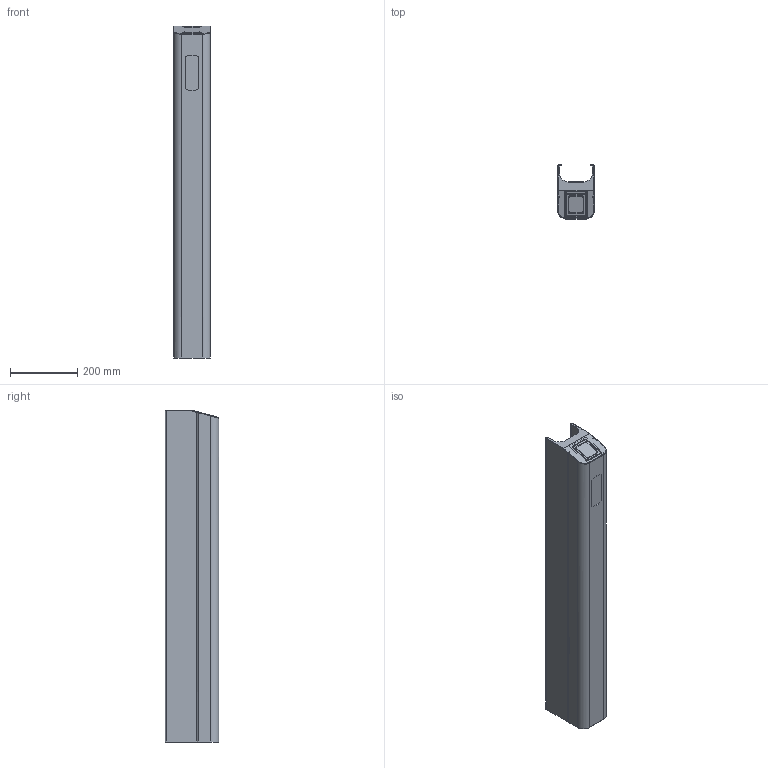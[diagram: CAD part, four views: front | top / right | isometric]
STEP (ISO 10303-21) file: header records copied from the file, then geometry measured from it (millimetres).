
FILE_DESCRIPTION(/* description */ ('Unknown'),/* implementation_level */ '2;1');
FILE_NAME(/* name */ 'ST-01 FP-01Q.1',/* time_stamp */ '2021-12-24T09:41:59+03:00',/* author */ ('Unknown'),/* organization */ ('Unknown'),/* preprocessor_version */ 'ST-DEVELOPER v18.1',/* originating_system */ 'Solid Edge',/* authorisation */ 'Unknown');
FILE_SCHEMA (('CONFIG_CONTROL_DESIGN'));
Length unit declared in the file: millimetre
Products named in the file (18): ST-01 FP-01Q.1; ST-01.6.093.00 ﾊ濱oa_0; ST-01.6.085.00 扰鍙欙樥燲oa_1; ST-01.6.083.17 鍔膰睯縺_r1; ST-01.6.083.14 署赅 r1; ST-01.6.083.17-01 鍔膰睯縺; ST-01.6.086.00 昜闉趌oa_2; ST-01.6.087.00 昜闉趌oa_3; ST-01.6.085.00 扰鍙欙樥燲oa_4; ST-01.6.084.00 ﾊ濱oa_5; ST-01.6.084.11 ﾊ濱r1; ST-01.6.088.00 砑僔蠂縺_oa_6; ST-01.090.00ÑÁ Áëîê èíäèêàöèè; ST-01.6.080.15 砑僔蠂縺; ST-01.6.931.00 忺摎錪 襜贀槻鍣 鴈儰罻灕醂oa_7; ST-01.6.932.00 忺摎錪_oa_8; Ñêàíåð øòðèõ-êîäà Mertech N160 P2D
Assembly tree (17 placements, depth 4):
  ST-01 FP-01Q.1
    ST-01.6.093.00 ﾊ濱oa_0
      ST-01.6.085.00 扰鍙欙樥燲oa_1
      ST-01.6.083.17 鍔膰睯縺_r1
      ST-01.6.083.14 署赅 r1
      ST-01.6.083.17-01 鍔膰睯縺
      ST-01.6.086.00 昜闉趌oa_2
      ST-01.6.087.00 昜闉趌oa_3
      ST-01.6.085.00 扰鍙欙樥燲oa_4
      ST-01.6.084.00 ﾊ濱oa_5
        ST-01.6.084.11 ﾊ濱r1
    ST-01.6.088.00 砑僔蠂縺_oa_6
    ST-01.090.00ÑÁ Áëîê èíäèêàöèè
      ST-01.090.00ÑÁ Áëîê èíäèêàöèè
    ST-01.6.080.15 砑僔蠂縺
    ST-01.6.931.00 忺摎錪 襜贀槻鍣 鴈儰罻灕醂oa_7
      ST-01.6.932.00 忺摎錪_oa_8
    Ñêàíåð øòðèõ-êîäà Mertech N160 P2D
Bounding box: 110 x 159.5 x 987.5 mm (x, y, z)
Volume: 906551.8 mm3; surface area: 1026794.3 mm2
Topology: 42 solids, 42 shells, 1033 faces, 2463 edges, 1567 vertices
Faces by surface type: plane 650, cylinder 240, cone 76, torus 32, bspline 29, sphere 6
Full cylindrical faces by diameter (mm): 0.5 x3, 2.459 x4, 3 x11, 3.2 x4, 3.3 x32, 3.5 x6, 4 x8, 4.3 x4, 4.5 x1, 4.6 x2, 4.8 x2, 5 x18, 5.5 x4, 5.6 x4, 5.9 x4, 6 x3, 7 x10, 7.5 x1, 8 x6, 9 x5, 10.5 x1, 13.95 x1
Entity records: 32313 total; most frequent: CARTESIAN_POINT 6807, DIRECTION 4868, ORIENTED_EDGE 4416, EDGE_CURVE 2208, AXIS2_PLACEMENT_3D 1759, VERTEX_POINT 1507, FACE_BOUND 1419, EDGE_LOOP 1413
